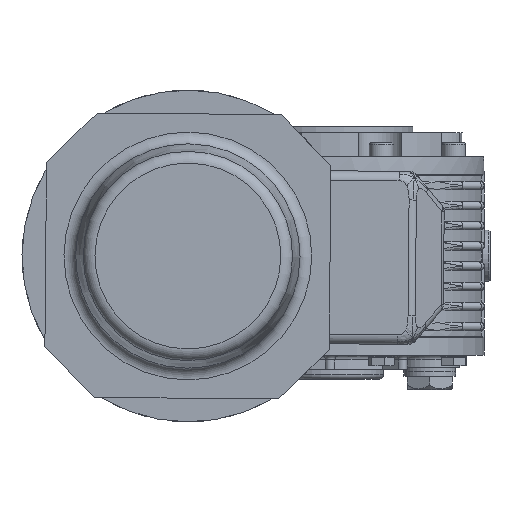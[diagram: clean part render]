
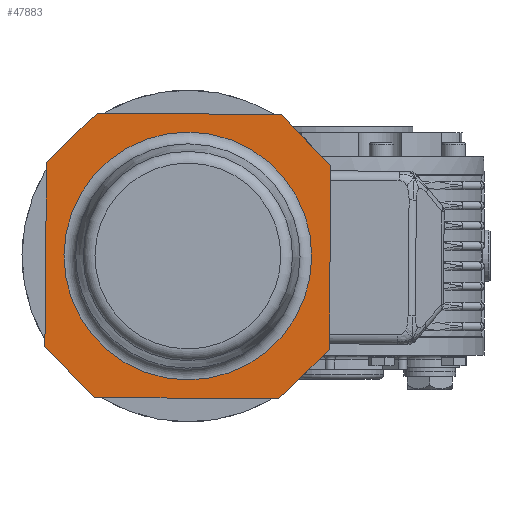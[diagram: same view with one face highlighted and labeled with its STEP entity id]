
A CAD part, left-side view. The second image highlights one B-rep face of the part: STEP entity #47883.
In plain terms, the highlighted planar face has unit normal (-1, 0, 0) as drawn and (1, 0, 0) by its records, which use the part's own axes.
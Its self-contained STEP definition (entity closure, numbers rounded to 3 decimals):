
#47777=CARTESIAN_POINT('',(176.0,0.,52.284));
#47778=VERTEX_POINT('',#47777);
#47779=CARTESIAN_POINT('',(176.0,0.0,0.0));
#47780=DIRECTION('',(1.0,0.0,0.0));
#47781=DIRECTION('',(0.0,0.0,-1.0));
#47782=AXIS2_PLACEMENT_3D('',#47779,#47780,#47781);
#47783=CIRCLE('',#47782,52.284);
#47784=EDGE_CURVE('',#47778,#47778,#47783,.T.);
#47809=CARTESIAN_POINT('',(176.0,26.4,0.0));
#47810=DIRECTION('',(1.0,0.0,0.0));
#47811=DIRECTION('',(0.0,0.0,-1.0));
#47812=AXIS2_PLACEMENT_3D('',#47809,#47810,#47811);
#47813=PLANE('',#47812);
#47814=CARTESIAN_POINT('',(176.0,-60.0,38.787));
#47815=VERTEX_POINT('',#47814);
#47816=CARTESIAN_POINT('',(176.0,-38.787,60.0));
#47817=VERTEX_POINT('',#47816);
#47818=CARTESIAN_POINT('',(176.0,-60.0,38.787));
#47819=DIRECTION('',(0.0,0.707,0.707));
#47820=VECTOR('',#47819,30.);
#47821=LINE('',#47818,#47820);
#47822=EDGE_CURVE('',#47815,#47817,#47821,.T.);
#47823=ORIENTED_EDGE('',*,*,#47822,.F.);
#47824=CARTESIAN_POINT('',(176.0,-60.0,-38.787));
#47825=VERTEX_POINT('',#47824);
#47826=CARTESIAN_POINT('',(176.0,-60.0,-38.787));
#47827=DIRECTION('',(0.0,0.0,1.0));
#47828=VECTOR('',#47827,77.574);
#47829=LINE('',#47826,#47828);
#47830=EDGE_CURVE('',#47825,#47815,#47829,.T.);
#47831=ORIENTED_EDGE('',*,*,#47830,.F.);
#47832=CARTESIAN_POINT('',(176.0,-38.787,-60.0));
#47833=VERTEX_POINT('',#47832);
#47834=CARTESIAN_POINT('',(176.0,-38.787,-60.0));
#47835=DIRECTION('',(0.0,-0.707,0.707));
#47836=VECTOR('',#47835,30.);
#47837=LINE('',#47834,#47836);
#47838=EDGE_CURVE('',#47833,#47825,#47837,.T.);
#47839=ORIENTED_EDGE('',*,*,#47838,.F.);
#47840=CARTESIAN_POINT('',(176.0,38.787,-60.0));
#47841=VERTEX_POINT('',#47840);
#47842=CARTESIAN_POINT('',(176.0,38.787,-60.0));
#47843=DIRECTION('',(0.0,-1.0,0.0));
#47844=VECTOR('',#47843,77.574);
#47845=LINE('',#47842,#47844);
#47846=EDGE_CURVE('',#47841,#47833,#47845,.T.);
#47847=ORIENTED_EDGE('',*,*,#47846,.F.);
#47848=CARTESIAN_POINT('',(176.0,60.0,-38.787));
#47849=VERTEX_POINT('',#47848);
#47850=CARTESIAN_POINT('',(176.0,60.0,-38.787));
#47851=DIRECTION('',(0.0,-0.707,-0.707));
#47852=VECTOR('',#47851,30.);
#47853=LINE('',#47850,#47852);
#47854=EDGE_CURVE('',#47849,#47841,#47853,.T.);
#47855=ORIENTED_EDGE('',*,*,#47854,.F.);
#47856=CARTESIAN_POINT('',(176.0,60.0,38.787));
#47857=VERTEX_POINT('',#47856);
#47858=CARTESIAN_POINT('',(176.0,60.0,38.787));
#47859=DIRECTION('',(0.0,0.0,-1.0));
#47860=VECTOR('',#47859,77.574);
#47861=LINE('',#47858,#47860);
#47862=EDGE_CURVE('',#47857,#47849,#47861,.T.);
#47863=ORIENTED_EDGE('',*,*,#47862,.F.);
#47864=CARTESIAN_POINT('',(176.0,38.787,60.0));
#47865=VERTEX_POINT('',#47864);
#47866=CARTESIAN_POINT('',(176.0,38.787,60.0));
#47867=DIRECTION('',(0.0,0.707,-0.707));
#47868=VECTOR('',#47867,30.);
#47869=LINE('',#47866,#47868);
#47870=EDGE_CURVE('',#47865,#47857,#47869,.T.);
#47871=ORIENTED_EDGE('',*,*,#47870,.F.);
#47872=CARTESIAN_POINT('',(176.0,-38.787,60.0));
#47873=DIRECTION('',(0.0,1.0,0.0));
#47874=VECTOR('',#47873,77.574);
#47875=LINE('',#47872,#47874);
#47876=EDGE_CURVE('',#47817,#47865,#47875,.T.);
#47877=ORIENTED_EDGE('',*,*,#47876,.F.);
#47878=EDGE_LOOP('',(#47823,#47831,#47839,#47847,#47855,#47863,#47871,#47877));
#47879=FACE_OUTER_BOUND('',#47878,.T.);
#47880=ORIENTED_EDGE('',*,*,#47784,.F.);
#47881=EDGE_LOOP('',(#47880));
#47882=FACE_BOUND('',#47881,.T.);
#47883=ADVANCED_FACE('',(#47879,#47882),#47813,.T.);
